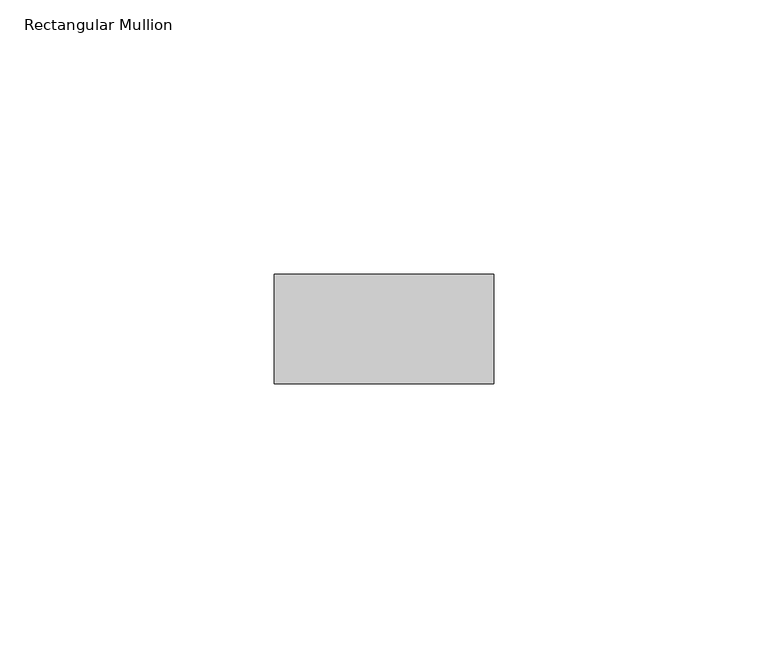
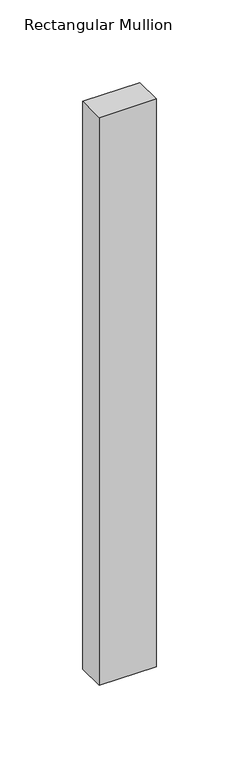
"""IFC4 building model written with IfcOpenShell, lengths in millimetres: member geometry, Rectangular Mullion : RIPA 4x2 cm."""

import ifcopenshell
import ifcopenshell.guid

model = None  # the IFC model being written
_history = None  # IfcOwnerHistory: only IFC2X3 demands one
_inside = {}  # id of a spatial element -> (the spatial element, [elements in it])
_under = {}  # id of a project, library or spatial element -> (it, [spatial elements below it])
_declared = {}  # id of a project -> (the project, [libraries it declares])
_typed = {}  # id of a type object -> (the type object, [elements of that type])
_made_of = {}  # id of a material, layer set ... -> (it, [elements and type objects made of it])


def new_model(schema):
    """Start an empty IFC model of exactly this schema.

    Asked for "IFC4X3", IfcOpenShell would pick the latest addendum, in which some entities
    have other attributes; the version numbers below select the first issue.
    IFC2X3 requires an IfcOwnerHistory on every rooted entity: one is made here for all.
    """
    global model, _history
    if schema == "IFC4X3":
        model = ifcopenshell.file(schema_version=(4, 3, 0, 0))
    else:
        model = ifcopenshell.file(schema=schema)
    _inside.clear()
    _under.clear()
    _declared.clear()
    _typed.clear()
    _made_of.clear()
    _history = None
    if model.schema == "IFC2X3":
        org = make("IfcOrganization", Name="unknown")
        user = make(
            "IfcPersonAndOrganization",
            ThePerson=make("IfcPerson", FamilyName="unknown"),
            TheOrganization=org,
        )
        app = make(
            "IfcApplication",
            ApplicationDeveloper=org,
            Version="unknown",
            ApplicationFullName="unknown",
            ApplicationIdentifier="unknown",
        )
        _history = make(
            "IfcOwnerHistory",
            OwningUser=user,
            OwningApplication=app,
            ChangeAction="ADDED",
            CreationDate=0,
        )
    return model


def make(cls, **values):
    """One entity of the class cls with the attributes given. An attribute that is None is left unset."""
    return model.create_entity(
        cls, **{name: value for name, value in values.items() if value is not None}
    )


def rooted(cls, **values):
    """An entity with a GlobalId (a new one), such as an element, a storey or a relation."""
    return make(cls, GlobalId=ifcopenshell.guid.new(), OwnerHistory=_history, **values)


def si_unit(unit_type, name, prefix=None):
    """IfcSIUnit, for example si_unit("LENGTHUNIT", "METRE", prefix="MILLI")."""
    return make("IfcSIUnit", UnitType=unit_type, Prefix=prefix, Name=name)


def assignment(units):
    """IfcUnitAssignment: the units of a project."""
    return None if units is None else make("IfcUnitAssignment", Units=units)


def point(xyz):
    """IfcCartesianPoint."""
    return None if xyz is None else make("IfcCartesianPoint", Coordinates=xyz)


def direction(xyz):
    """IfcDirection."""
    return None if xyz is None else make("IfcDirection", DirectionRatios=xyz)


def frame(location, z_axis=None, x_axis=None):
    """IfcAxis2Placement3D, a coordinate frame: its origin and axes. An axis left out is left unset."""
    return make(
        "IfcAxis2Placement3D",
        Location=point(location),
        Axis=direction(z_axis),
        RefDirection=direction(x_axis),
    )


def origin():
    """The frame at (0, 0, 0) with its axes left unset."""
    return frame((0.0, 0.0, 0.0))


def place(relative_to, where):
    """IfcLocalPlacement: puts the frame where relative to a parent placement (None: the world)."""
    return make(
        "IfcLocalPlacement", PlacementRelTo=relative_to, RelativePlacement=where
    )


def context(
    kind, dimensions, precision=None, world=None, true_north=None, identifier=None
):
    """IfcGeometricRepresentationContext, for example the 3D "Model" context."""
    return make(
        "IfcGeometricRepresentationContext",
        ContextIdentifier=identifier,
        ContextType=kind,
        CoordinateSpaceDimension=dimensions,
        Precision=precision,
        WorldCoordinateSystem=world,
        TrueNorth=true_north,
    )


def project(units=None, contexts=None):
    """IfcProject with its units and contexts."""
    return rooted(
        "IfcProject",
        Name="project",
        RepresentationContexts=contexts,
        UnitsInContext=assignment(units),
    )


def spatial(cls, under=None, at=None, **own):
    """A site, building, storey or space (cls), placed at a placement, below another one or the project."""
    s = rooted(cls, ObjectPlacement=at, **own)
    if under is not None:
        _under.setdefault(under.id(), (under, []))[1].append(s)
    return s


def polyline(points):
    """IfcPolyline through the points."""
    return make("IfcPolyline", Points=[point(p) for p in points])


def outline(outer, holes=None, kind="AREA"):
    """IfcArbitraryClosedProfileDef: a profile drawn as a closed curve; with holes, ...WithVoids."""
    if holes is None:
        return make("IfcArbitraryClosedProfileDef", ProfileType=kind, OuterCurve=outer)
    return make(
        "IfcArbitraryProfileDefWithVoids",
        ProfileType=kind,
        OuterCurve=outer,
        InnerCurves=holes,
    )


def extrude(swept, where, along, depth):
    """IfcExtrudedAreaSolid: the profile swept, set in the frame where, extruded along a direction by depth."""
    return make(
        "IfcExtrudedAreaSolid",
        SweptArea=swept,
        Position=where,
        ExtrudedDirection=direction(along),
        Depth=depth,
    )


def shape(context_of_items, identifier, shape_type, items):
    """IfcShapeRepresentation: the items that make up one representation, for example the "Body"."""
    return make(
        "IfcShapeRepresentation",
        ContextOfItems=context_of_items,
        RepresentationIdentifier=identifier,
        RepresentationType=shape_type,
        Items=items,
    )


def source(mapping_origin, context_of_items, identifier, shape_type, items):
    """IfcRepresentationMap: a shape defined once, which mapped items show again and again."""
    return make(
        "IfcRepresentationMap",
        MappingOrigin=mapping_origin,
        MappedRepresentation=shape(context_of_items, identifier, shape_type, items),
    )


def transform(
    local_origin,
    x_axis=None,
    y_axis=None,
    z_axis=None,
    scale=None,
    scale2=None,
    scale3=None,
    uniform=True,
):
    """IfcCartesianTransformationOperator3D, or its non-uniform kind. x_axis, y_axis, z_axis: its Axis1, 2, 3."""
    if uniform:
        return make(
            "IfcCartesianTransformationOperator3D",
            Axis1=direction(x_axis),
            Axis2=direction(y_axis),
            LocalOrigin=point(local_origin),
            Scale=scale,
            Axis3=direction(z_axis),
        )
    return make(
        "IfcCartesianTransformationOperator3DnonUniform",
        Axis1=direction(x_axis),
        Axis2=direction(y_axis),
        LocalOrigin=point(local_origin),
        Scale=scale,
        Axis3=direction(z_axis),
        Scale2=scale2,
        Scale3=scale3,
    )


def mapped(mapping_source, mapping_target):
    """IfcMappedItem: shows the shape of a source again, moved by a transform."""
    return make(
        "IfcMappedItem", MappingSource=mapping_source, MappingTarget=mapping_target
    )


def made_of(thing, what):
    """Note that an element or type object is made of a material, layer set ...; save() writes the relation."""
    if what is not None:
        _made_of.setdefault(what.id(), (what, []))[1].append(thing)
    return thing


def element(
    cls,
    number,
    at=None,
    inside=None,
    cuts=None,
    type_object=None,
    material=None,
    context=None,
    identifier="Body",
    shape_type=None,
    held_by="IfcProductDefinitionShape",
    body=None,
    shapes=None,
    **own,
):
    """One element of the class cls, such as IfcWall. Its Tag is "e" and its number.

    at: its placement. inside: the storey or other place that contains it. cuts: it is an
    opening in that element (IfcRelVoidsElement). A single representation is given by context,
    identifier, shape_type and body (its items); several are given by shapes. held_by: the class
    of the entity that holds the representations. save() writes the other relations.
    """
    e = rooted(cls, Tag="e%d" % number, ObjectPlacement=at, **own)
    if body is not None:
        shapes = [shape(context, identifier, shape_type, body)]
    if shapes is not None:
        e.Representation = make(held_by, Representations=shapes)
    if inside is not None:
        _inside.setdefault(inside.id(), (inside, []))[1].append(e)
    if cuts is not None:
        rooted(
            "IfcRelVoidsElement", RelatingBuildingElement=cuts, RelatedOpeningElement=e
        )
    if type_object is not None:
        _typed.setdefault(type_object.id(), (type_object, []))[1].append(e)
    return made_of(e, material)


def aggregate(whole, parts):
    """IfcRelAggregates: a whole, such as a stair, and the parts it consists of."""
    return rooted("IfcRelAggregates", RelatingObject=whole, RelatedObjects=parts)


def save(model, path):
    """Write the relations noted so far, then the file.

    IfcRelAggregates (storeys below a building ...), IfcRelContainedInSpatialStructure (elements
    in a storey), IfcRelDefinesByType, IfcRelAssociatesMaterial and IfcRelDeclares: one each for
    every whole, place, type object, material and project.
    """
    for whole, parts in _under.values():
        aggregate(whole, parts)
    for where, things in _inside.values():
        rooted(
            "IfcRelContainedInSpatialStructure",
            RelatedElements=things,
            RelatingStructure=where,
        )
    for kind, things in _typed.values():
        rooted("IfcRelDefinesByType", RelatedObjects=things, RelatingType=kind)
    for what, things in _made_of.values():
        rooted("IfcRelAssociatesMaterial", RelatedObjects=things, RelatingMaterial=what)
    for by, libraries in _declared.values():
        rooted("IfcRelDeclares", RelatingContext=by, RelatedDefinitions=libraries)
    model.write(path)


def rectangular_mullion_a241c94e(model_context):
    return source(origin(), model_context, "Body", "SweptSolid", [
        extrude(outline(polyline([(0.0, 0.0), (0.0, -20.0), (-40.0, -20.0), (-40.0, 0.0), (0.0, 0.0)])), frame((0.0, 0.0, -420.0), z_axis=(0.0, 0.0, 1.0), x_axis=(1.0, 0.0, 0.0)), (0.0, 0.0, 1.0), 420.0),
    ])


if __name__ == "__main__":
    model = new_model("IFC4")
    model_context = context("Model", 3, world=origin())
    ifc_project = project(units=[si_unit("LENGTHUNIT", "METRE", prefix="MILLI")], contexts=[model_context])
    site = spatial("IfcSite", under=ifc_project)
    building = spatial("IfcBuilding", under=site)
    placement = place(None, origin())
    rectangular_mullion_shape = rectangular_mullion_a241c94e(model_context)
    element("IfcMember", 1, ObjectType="Rectangular Mullion : RIPA 4x2 cm", at=placement, inside=building, context=model_context, shape_type="MappedRepresentation", body=[
        mapped(rectangular_mullion_shape, transform((0.0, 0.0, 0.0), x_axis=(1.0, 0.0, 0.0), y_axis=(0.0, 1.0, 0.0), z_axis=(0.0, 0.0, 1.0))),
    ])
    save(model, "model.ifc")
